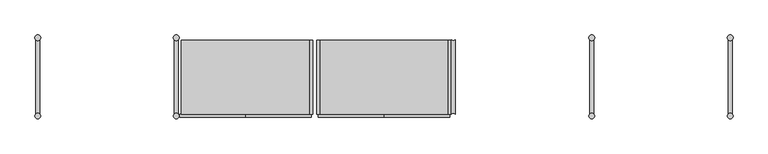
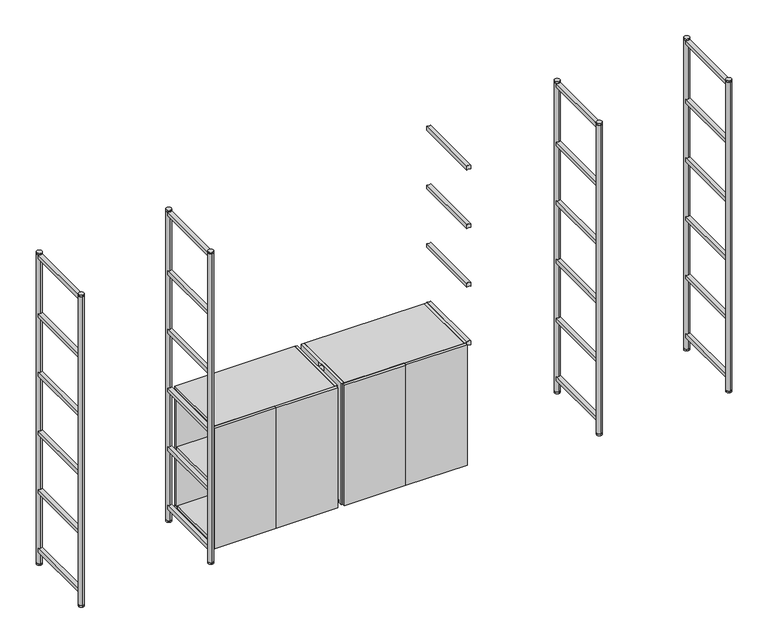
"""IFC4 building model written with IfcOpenShell, lengths in millimetres: furniture geometry, MAKR_TEMPLATE_800mmL1 : MAKR_TEMPLATE_800mmL 2."""

from ifc_helpers import new_model, si_unit, point, frame, frame_2d, origin, origin_with_axes, place, context, project, spatial, polyline, circle_curve, trimmed, segment, composite_curve, outline, extrude, source, transform, mapped, element, save
from ifc_brep_helpers import plane_surface, revolved_surface, advanced_brep


def furniture_078b4f94(model_context):
    return source(origin(), model_context, "Body", "SolidModel", [
        advanced_brep(
        [(-443.0, 218.5217186, 107.0), (-1207.0, 218.5217186, 107.0), (-1207.0, 196.394702, 107.0), (-1201.1019215, 196.394702, 107.0), (-1201.1019215, -199.3512647, 107.0), (-1207.0, -199.3512647, 107.0), (-1207.0, -221.4782814, 107.0), (-443.0, -221.4782814, 107.0), (-443.0, 218.5217186, 89.0), (-443.0, -221.4782814, 89.0), (-1207.0, -221.4782814, 89.0), (-1207.0, -199.4782814, 89.0), (-1201.1019215, -199.4782814, 89.0), (-1201.1019215, 196.5217186, 89.0), (-1207.0, 196.5217186, 89.0), (-1207.0, 218.5217186, 89.0), (-1207.0, 196.5217186, 106.0), (-1207.0, -199.4782814, 106.0), (-1201.1019215, 196.5217186, 106.0), (-1201.1019215, -199.4782814, 106.0)],
        [
            (0, 1),
            (1, 2),
            (2, 3),
            (3, 4),
            (4, 5),
            (5, 6),
            (6, 7),
            (7, 0),
            (8, 9),
            (9, 10),
            (10, 11),
            (11, 12),
            (12, 13),
            (13, 14),
            (14, 15),
            (15, 8),
            (0, 8),
            (15, 1),
            (14, 16),
            (16, 2, circle_curve(frame((-1207.0, 192.5217186, 106.0), z_axis=(1.0, 0.0, 0.0), x_axis=(0.0, 1.0, 0.0)), 4.0)),
            (10, 6),
            (5, 17, circle_curve(frame((-1207.0, -195.4782814, 106.0), z_axis=(1.0, 0.0, 0.0), x_axis=(0.0, 1.0, 0.0)), 4.0)),
            (17, 11),
            (9, 7),
            (18, 13),
            (12, 19),
            (19, 4, circle_curve(frame((-1201.1019215, -195.4782814, 106.0), z_axis=(-1.0, 0.0, 0.0), x_axis=(0.0, 1.0, 0.0)), 4.0)),
            (3, 18, circle_curve(frame((-1201.1019215, 192.5217186, 106.0), z_axis=(-1.0, 0.0, 0.0), x_axis=(0.0, 1.0, 0.0)), 4.0)),
            (19, 17),
            (18, 16),
        ],
        [
            plane_surface(frame((-1207.0, 218.5217186, 107.0), z_axis=(0.0, 0.0, 1.0), x_axis=(-1.0, 0.0, 0.0))),
            plane_surface(frame((-1207.0, 218.5217186, 89.0), z_axis=(0.0, 0.0, -1.0), x_axis=(1.0, 0.0, 0.0))),
            plane_surface(frame((-443.0, 218.5217186, 107.0), z_axis=(0.0, 1.0, 0.0), x_axis=(0.0, 0.0, -1.0))),
            plane_surface(frame((-1207.0, 218.5217186, 107.0), z_axis=(-1.0, 0.0, 0.0), x_axis=(0.0, 0.0, -1.0))),
            plane_surface(frame((-1207.0, -221.4782814, 107.0), z_axis=(0.0, -1.0, 0.0), x_axis=(0.0, 0.0, -1.0))),
            plane_surface(frame((-443.0, -221.4782814, 107.0), z_axis=(1.0, 0.0, 0.0), x_axis=(0.0, 0.0, -1.0))),
            plane_surface(frame((-1201.1019215, -191.4782814, 106.0), z_axis=(-1.0, 0.0, 0.0), x_axis=(0.0, 0.0, 1.0))),
            revolved_surface(polyline([(-1201.1019215, -191.4782814, 106.0), (-1207.0, -191.4782814, 106.0)]), (-1231.0458228, -195.4782814, 106.0), (1.0, 0.0, 0.0)),
            plane_surface(frame((-1201.1019215, -199.4782814, 106.0), z_axis=(0.0, 1.0, 0.0), x_axis=(-1.0, 0.0, 0.0))),
            plane_surface(frame((-1201.1019215, 196.5217186, 89.0), z_axis=(0.0, -1.0, 0.0), x_axis=(-1.0, 0.0, 0.0))),
            revolved_surface(polyline([(-1201.1019215, 196.5217186, 106.0), (-1207.0, 196.5217186, 106.0)]), (-1231.0458228, 192.5217186, 106.0), (1.0, 0.0, 0.0)),
        ],
        [
            (0, [[1, 2, 3, 4, 5, 6, 7, 8]]),
            (1, [[9, 10, 11, 12, 13, 14, 15, 16]]),
            (2, [[-1, 17, -16, 18]]),
            (3, [[-18, -15, 19, 20, -2]]),
            (3, [[21, -6, 22, 23, -11]]),
            (4, [[-7, -21, -10, 24]]),
            (5, [[-8, -24, -9, -17]]),
            (6, [[25, -13, 26, 27, -4, 28]]),
            (7, [[-27, 29, -22, -5]]),
            (8, [[-26, -12, -23, -29]]),
            (9, [[-25, 30, -19, -14]]),
            (10, [[-28, -3, -20, -30]]),
        ],
    ),
        extrude(outline(composite_curve([segment(polyline([(-221.4782814, 904.0), (218.5217186, 904.0), (218.5217186, 89.0), (196.5217186, 89.0), (196.5217186, 106.0)]), True, "CONTINUOUS"), segment(trimmed(circle_curve(frame_2d((192.5217186, 106.0)), 4.0), [point((196.5217186, 106.0))], [point((192.5217186, 110.0))], True, "CARTESIAN"), True, "CONTINUOUS"), segment(polyline([(192.5217186, 110.0), (-195.4782814, 110.0)]), True, "CONTINUOUS"), segment(trimmed(circle_curve(frame_2d((-195.4782814, 106.0)), 4.0), [point((-195.4782814, 110.0))], [point((-199.4782814, 106.0))], True, "CARTESIAN"), True, "CONTINUOUS"), segment(polyline([(-199.4782814, 106.0), (-199.4782814, 89.0), (-221.4782814, 89.0), (-221.4782814, 904.0)]), True, "CONTINUOUS")], self_intersect=False), holes=[polyline([(-27.4782814, 899.0), (-27.4782814, 874.0), (24.5217186, 874.0), (24.5217186, 899.0), (-27.4782814, 899.0)])]), frame((-443.0, 0.0, 0.0), z_axis=(1.0, 0.0, 0.0), x_axis=(0.0, 1.0, 0.0)), (0.0, 0.0, 1.0), 18.0),
        extrude(outline(polyline([(-443.0, 218.5217186), (-443.0, 200.5217186), (-1207.0, 200.5217186), (-1207.0, 218.5217186), (-443.0, 218.5217186)])), frame((0.0, 0.0, 107.0), z_axis=(0.0, 0.0, 1.0), x_axis=(1.0, 0.0, 0.0)), (0.0, 0.0, 1.0), 779.0),
        extrude(outline(polyline([(-443.0, 200.5217186), (-443.0, -221.4782814), (-1207.0, -221.4782814), (-1207.0, 200.5217186), (-443.0, 200.5217186)])), frame((0.0, 0.0, 487.5), z_axis=(0.0, 0.0, 1.0), x_axis=(1.0, 0.0, 0.0)), (0.0, 0.0, 1.0), 18.0),
        extrude(outline(polyline([(-443.0, 218.5217186), (-443.0, -221.4782814), (-1207.0, -221.4782814), (-1207.0, 218.5217186), (-443.0, 218.5217186)])), frame((0.0, 0.0, 886.0), z_axis=(0.0, 0.0, 1.0), x_axis=(1.0, 0.0, 0.0)), (0.0, 0.0, 1.0), 18.0),
        extrude(outline(polyline([(-816.0, 200.5217186), (-816.0, -221.4782814), (-834.0, -221.4782814), (-834.0, 200.5217186), (-816.0, 200.5217186)])), frame((0.0, 0.0, 107.0), z_axis=(0.0, 0.0, 1.0), x_axis=(1.0, 0.0, 0.0)), (0.0, 0.0, 1.0), 779.0),
        extrude(outline(polyline([(-434.0, -221.4782814), (-434.0, -239.4782814), (-824.0, -239.4782814), (-824.0, -221.4782814), (-434.0, -221.4782814)])), frame((0.0, 0.0, 91.0), z_axis=(0.0, 0.0, 1.0), x_axis=(1.0, 0.0, 0.0)), (0.0, 0.0, 1.0), 811.0),
        extrude(outline(polyline([(-1216.0, -221.4782814), (-826.0, -221.4782814), (-826.0, -239.4782814), (-1216.0, -239.4782814), (-1216.0, -221.4782814)])), frame((0.0, 0.0, 91.0), z_axis=(0.0, 0.0, 1.0), x_axis=(1.0, 0.0, 0.0)), (0.0, 0.0, 1.0), 811.0),
        extrude(outline(composite_curve([segment(polyline([(2075.0, 221.4782814), (2075.0, -221.4782814)]), True, "CONTINUOUS"), segment(trimmed(circle_curve(frame_2d((2062.5, -233.0)), 17.0), [point((2075.0, -221.4782814))], [point((2050.0, -221.4782814))], True, "CARTESIAN"), True, "CONTINUOUS"), segment(polyline([(2050.0, -221.4782814), (2050.0, 221.4782814)]), True, "CONTINUOUS"), segment(trimmed(circle_curve(frame_2d((2062.5, 233.0)), 17.0), [point((2050.0, 221.4782814))], [point((2075.0, 221.4782814))], True, "CARTESIAN"), True, "CONTINUOUS")], self_intersect=False)), frame((0.0, 0.0, 2064.0), z_axis=(0.0, 0.0, 1.0), x_axis=(1.0, 0.0, 0.0)), (0.0, 0.0, 1.0), 25.0),
        extrude(outline(composite_curve([segment(polyline([(2075.0, 221.4782814), (2075.0, -221.4782814)]), True, "CONTINUOUS"), segment(trimmed(circle_curve(frame_2d((2062.5, -233.0)), 17.0), [point((2075.0, -221.4782814))], [point((2050.0, -221.4782814))], True, "CARTESIAN"), True, "CONTINUOUS"), segment(polyline([(2050.0, -221.4782814), (2050.0, 221.4782814)]), True, "CONTINUOUS"), segment(trimmed(circle_curve(frame_2d((2062.5, 233.0)), 17.0), [point((2050.0, 221.4782814))], [point((2075.0, 221.4782814))], True, "CARTESIAN"), True, "CONTINUOUS")], self_intersect=False)), frame((0.0, 0.0, 1669.0), z_axis=(0.0, 0.0, 1.0), x_axis=(1.0, 0.0, 0.0)), (0.0, 0.0, 1.0), 25.0),
        extrude(outline(composite_curve([segment(polyline([(2075.0, 221.4782814), (2075.0, -221.4782814)]), True, "CONTINUOUS"), segment(trimmed(circle_curve(frame_2d((2062.5, -233.0)), 17.0), [point((2075.0, -221.4782814))], [point((2050.0, -221.4782814))], True, "CARTESIAN"), True, "CONTINUOUS"), segment(polyline([(2050.0, -221.4782814), (2050.0, 221.4782814)]), True, "CONTINUOUS"), segment(trimmed(circle_curve(frame_2d((2062.5, 233.0)), 17.0), [point((2050.0, 221.4782814))], [point((2075.0, 221.4782814))], True, "CARTESIAN"), True, "CONTINUOUS")], self_intersect=False)), frame((0.0, 0.0, 1274.0), z_axis=(0.0, 0.0, 1.0), x_axis=(1.0, 0.0, 0.0)), (0.0, 0.0, 1.0), 25.0),
        extrude(outline(composite_curve([segment(polyline([(2075.0, 221.4782814), (2075.0, -221.4782814)]), True, "CONTINUOUS"), segment(trimmed(circle_curve(frame_2d((2062.5, -233.0)), 17.0), [point((2075.0, -221.4782814))], [point((2050.0, -221.4782814))], True, "CARTESIAN"), True, "CONTINUOUS"), segment(polyline([(2050.0, -221.4782814), (2050.0, 221.4782814)]), True, "CONTINUOUS"), segment(trimmed(circle_curve(frame_2d((2062.5, 233.0)), 17.0), [point((2050.0, 221.4782814))], [point((2075.0, 221.4782814))], True, "CARTESIAN"), True, "CONTINUOUS")], self_intersect=False)), frame((0.0, 0.0, 879.0), z_axis=(0.0, 0.0, 1.0), x_axis=(1.0, 0.0, 0.0)), (0.0, 0.0, 1.0), 25.0),
        extrude(outline(composite_curve([segment(polyline([(2075.0, 221.4782814), (2075.0, -221.4782814)]), True, "CONTINUOUS"), segment(trimmed(circle_curve(frame_2d((2062.5, -233.0)), 17.0), [point((2075.0, -221.4782814))], [point((2050.0, -221.4782814))], True, "CARTESIAN"), True, "CONTINUOUS"), segment(polyline([(2050.0, -221.4782814), (2050.0, 221.4782814)]), True, "CONTINUOUS"), segment(trimmed(circle_curve(frame_2d((2062.5, 233.0)), 17.0), [point((2050.0, 221.4782814))], [point((2075.0, 221.4782814))], True, "CARTESIAN"), True, "CONTINUOUS")], self_intersect=False)), frame((0.0, 0.0, 484.0), z_axis=(0.0, 0.0, 1.0), x_axis=(1.0, 0.0, 0.0)), (0.0, 0.0, 1.0), 25.0),
        extrude(outline(composite_curve([segment(polyline([(2075.0, 221.4782814), (2075.0, -221.4782814)]), True, "CONTINUOUS"), segment(trimmed(circle_curve(frame_2d((2062.5, -233.0)), 17.0), [point((2075.0, -221.4782814))], [point((2050.0, -221.4782814))], True, "CARTESIAN"), True, "CONTINUOUS"), segment(polyline([(2050.0, -221.4782814), (2050.0, 221.4782814)]), True, "CONTINUOUS"), segment(trimmed(circle_curve(frame_2d((2062.5, 233.0)), 17.0), [point((2050.0, 221.4782814))], [point((2075.0, 221.4782814))], True, "CARTESIAN"), True, "CONTINUOUS")], self_intersect=False)), frame((0.0, 0.0, 89.0), z_axis=(0.0, 0.0, 1.0), x_axis=(1.0, 0.0, 0.0)), (0.0, 0.0, 1.0), 25.0),
        extrude(outline(composite_curve([segment(trimmed(circle_curve(frame_2d((2062.5, -233.0)), 17.0), [point((2062.5, -216.0))], [point((2062.5, -250.0))], False, "CARTESIAN"), True, "CONTINUOUS"), segment(trimmed(circle_curve(frame_2d((2062.5, -233.0)), 17.0), [point((2062.5, -250.0))], [point((2062.5, -216.0))], False, "CARTESIAN"), True, "CONTINUOUS")], self_intersect=False)), frame((0.0, 0.0, 2091.0), z_axis=(0.0, 0.0, 1.0), x_axis=(1.0, 0.0, 0.0)), (0.0, 0.0, 1.0), 9.0),
        extrude(outline(composite_curve([segment(trimmed(circle_curve(frame_2d((2062.5, -233.0)), 17.0), [point((2062.5, -216.0))], [point((2062.5, -250.0))], False, "CARTESIAN"), True, "CONTINUOUS"), segment(trimmed(circle_curve(frame_2d((2062.5, -233.0)), 17.0), [point((2062.5, -250.0))], [point((2062.5, -216.0))], False, "CARTESIAN"), True, "CONTINUOUS")], self_intersect=False)), origin_with_axes(), (0.0, 0.0, 1.0), 9.0),
        extrude(outline(composite_curve([segment(trimmed(circle_curve(frame_2d((2062.5, -233.0)), 17.0), [point((2062.5, -216.0))], [point((2062.5, -250.0))], False, "CARTESIAN"), True, "CONTINUOUS"), segment(trimmed(circle_curve(frame_2d((2062.5, -233.0)), 17.0), [point((2062.5, -250.0))], [point((2062.5, -216.0))], False, "CARTESIAN"), True, "CONTINUOUS")], self_intersect=False)), frame((0.0, 0.0, 9.0), z_axis=(0.0, 0.0, 1.0), x_axis=(1.0, 0.0, 0.0)), (0.0, 0.0, 1.0), 2082.0),
        extrude(outline(composite_curve([segment(trimmed(circle_curve(frame_2d((2062.5, 233.0)), 17.0), [point((2062.5, 216.0))], [point((2062.5, 250.0))], False, "CARTESIAN"), True, "CONTINUOUS"), segment(trimmed(circle_curve(frame_2d((2062.5, 233.0)), 17.0), [point((2062.5, 250.0))], [point((2062.5, 216.0))], False, "CARTESIAN"), True, "CONTINUOUS")], self_intersect=False)), frame((0.0, 0.0, 2091.0), z_axis=(0.0, 0.0, 1.0), x_axis=(1.0, 0.0, 0.0)), (0.0, 0.0, 1.0), 9.0),
        extrude(outline(composite_curve([segment(trimmed(circle_curve(frame_2d((2062.5, 233.0)), 17.0), [point((2062.5, 216.0))], [point((2062.5, 250.0))], False, "CARTESIAN"), True, "CONTINUOUS"), segment(trimmed(circle_curve(frame_2d((2062.5, 233.0)), 17.0), [point((2062.5, 250.0))], [point((2062.5, 216.0))], False, "CARTESIAN"), True, "CONTINUOUS")], self_intersect=False)), origin_with_axes(), (0.0, 0.0, 1.0), 9.0),
        extrude(outline(composite_curve([segment(trimmed(circle_curve(frame_2d((2062.5, 233.0)), 17.0), [point((2062.5, 216.0))], [point((2062.5, 250.0))], False, "CARTESIAN"), True, "CONTINUOUS"), segment(trimmed(circle_curve(frame_2d((2062.5, 233.0)), 17.0), [point((2062.5, 250.0))], [point((2062.5, 216.0))], False, "CARTESIAN"), True, "CONTINUOUS")], self_intersect=False)), frame((0.0, 0.0, 9.0), z_axis=(0.0, 0.0, 1.0), x_axis=(1.0, 0.0, 0.0)), (0.0, 0.0, 1.0), 2082.0),
        extrude(outline(composite_curve([segment(polyline([(1250.0, 221.4782814), (1250.0, -221.4782814)]), True, "CONTINUOUS"), segment(trimmed(circle_curve(frame_2d((1237.5, -233.0)), 17.0), [point((1250.0, -221.4782814))], [point((1225.0, -221.4782814))], True, "CARTESIAN"), True, "CONTINUOUS"), segment(polyline([(1225.0, -221.4782814), (1225.0, 221.4782814)]), True, "CONTINUOUS"), segment(trimmed(circle_curve(frame_2d((1237.5, 233.0)), 17.0), [point((1225.0, 221.4782814))], [point((1250.0, 221.4782814))], True, "CARTESIAN"), True, "CONTINUOUS")], self_intersect=False)), frame((0.0, 0.0, 2064.0), z_axis=(0.0, 0.0, 1.0), x_axis=(1.0, 0.0, 0.0)), (0.0, 0.0, 1.0), 25.0),
        extrude(outline(composite_curve([segment(polyline([(1250.0, 221.4782814), (1250.0, -221.4782814)]), True, "CONTINUOUS"), segment(trimmed(circle_curve(frame_2d((1237.5, -233.0)), 17.0), [point((1250.0, -221.4782814))], [point((1225.0, -221.4782814))], True, "CARTESIAN"), True, "CONTINUOUS"), segment(polyline([(1225.0, -221.4782814), (1225.0, 221.4782814)]), True, "CONTINUOUS"), segment(trimmed(circle_curve(frame_2d((1237.5, 233.0)), 17.0), [point((1225.0, 221.4782814))], [point((1250.0, 221.4782814))], True, "CARTESIAN"), True, "CONTINUOUS")], self_intersect=False)), frame((0.0, 0.0, 1669.0), z_axis=(0.0, 0.0, 1.0), x_axis=(1.0, 0.0, 0.0)), (0.0, 0.0, 1.0), 25.0),
        extrude(outline(composite_curve([segment(polyline([(1250.0, 221.4782814), (1250.0, -221.4782814)]), True, "CONTINUOUS"), segment(trimmed(circle_curve(frame_2d((1237.5, -233.0)), 17.0), [point((1250.0, -221.4782814))], [point((1225.0, -221.4782814))], True, "CARTESIAN"), True, "CONTINUOUS"), segment(polyline([(1225.0, -221.4782814), (1225.0, 221.4782814)]), True, "CONTINUOUS"), segment(trimmed(circle_curve(frame_2d((1237.5, 233.0)), 17.0), [point((1225.0, 221.4782814))], [point((1250.0, 221.4782814))], True, "CARTESIAN"), True, "CONTINUOUS")], self_intersect=False)), frame((0.0, 0.0, 1274.0), z_axis=(0.0, 0.0, 1.0), x_axis=(1.0, 0.0, 0.0)), (0.0, 0.0, 1.0), 25.0),
        extrude(outline(composite_curve([segment(polyline([(1250.0, 221.4782814), (1250.0, -221.4782814)]), True, "CONTINUOUS"), segment(trimmed(circle_curve(frame_2d((1237.5, -233.0)), 17.0), [point((1250.0, -221.4782814))], [point((1225.0, -221.4782814))], True, "CARTESIAN"), True, "CONTINUOUS"), segment(polyline([(1225.0, -221.4782814), (1225.0, 221.4782814)]), True, "CONTINUOUS"), segment(trimmed(circle_curve(frame_2d((1237.5, 233.0)), 17.0), [point((1225.0, 221.4782814))], [point((1250.0, 221.4782814))], True, "CARTESIAN"), True, "CONTINUOUS")], self_intersect=False)), frame((0.0, 0.0, 879.0), z_axis=(0.0, 0.0, 1.0), x_axis=(1.0, 0.0, 0.0)), (0.0, 0.0, 1.0), 25.0),
        extrude(outline(composite_curve([segment(polyline([(1250.0, 221.4782814), (1250.0, -221.4782814)]), True, "CONTINUOUS"), segment(trimmed(circle_curve(frame_2d((1237.5, -233.0)), 17.0), [point((1250.0, -221.4782814))], [point((1225.0, -221.4782814))], True, "CARTESIAN"), True, "CONTINUOUS"), segment(polyline([(1225.0, -221.4782814), (1225.0, 221.4782814)]), True, "CONTINUOUS"), segment(trimmed(circle_curve(frame_2d((1237.5, 233.0)), 17.0), [point((1225.0, 221.4782814))], [point((1250.0, 221.4782814))], True, "CARTESIAN"), True, "CONTINUOUS")], self_intersect=False)), frame((0.0, 0.0, 484.0), z_axis=(0.0, 0.0, 1.0), x_axis=(1.0, 0.0, 0.0)), (0.0, 0.0, 1.0), 25.0),
        extrude(outline(composite_curve([segment(polyline([(1250.0, 221.4782814), (1250.0, -221.4782814)]), True, "CONTINUOUS"), segment(trimmed(circle_curve(frame_2d((1237.5, -233.0)), 17.0), [point((1250.0, -221.4782814))], [point((1225.0, -221.4782814))], True, "CARTESIAN"), True, "CONTINUOUS"), segment(polyline([(1225.0, -221.4782814), (1225.0, 221.4782814)]), True, "CONTINUOUS"), segment(trimmed(circle_curve(frame_2d((1237.5, 233.0)), 17.0), [point((1225.0, 221.4782814))], [point((1250.0, 221.4782814))], True, "CARTESIAN"), True, "CONTINUOUS")], self_intersect=False)), frame((0.0, 0.0, 89.0), z_axis=(0.0, 0.0, 1.0), x_axis=(1.0, 0.0, 0.0)), (0.0, 0.0, 1.0), 25.0),
        extrude(outline(composite_curve([segment(trimmed(circle_curve(frame_2d((1237.5, -233.0)), 17.0), [point((1237.5, -216.0))], [point((1237.5, -250.0))], False, "CARTESIAN"), True, "CONTINUOUS"), segment(trimmed(circle_curve(frame_2d((1237.5, -233.0)), 17.0), [point((1237.5, -250.0))], [point((1237.5, -216.0))], False, "CARTESIAN"), True, "CONTINUOUS")], self_intersect=False)), frame((0.0, 0.0, 2091.0), z_axis=(0.0, 0.0, 1.0), x_axis=(1.0, 0.0, 0.0)), (0.0, 0.0, 1.0), 9.0),
        extrude(outline(composite_curve([segment(trimmed(circle_curve(frame_2d((1237.5, -233.0)), 17.0), [point((1237.5, -216.0))], [point((1237.5, -250.0))], False, "CARTESIAN"), True, "CONTINUOUS"), segment(trimmed(circle_curve(frame_2d((1237.5, -233.0)), 17.0), [point((1237.5, -250.0))], [point((1237.5, -216.0))], False, "CARTESIAN"), True, "CONTINUOUS")], self_intersect=False)), origin_with_axes(), (0.0, 0.0, 1.0), 9.0),
        extrude(outline(composite_curve([segment(trimmed(circle_curve(frame_2d((1237.5, -233.0)), 17.0), [point((1237.5, -216.0))], [point((1237.5, -250.0))], False, "CARTESIAN"), True, "CONTINUOUS"), segment(trimmed(circle_curve(frame_2d((1237.5, -233.0)), 17.0), [point((1237.5, -250.0))], [point((1237.5, -216.0))], False, "CARTESIAN"), True, "CONTINUOUS")], self_intersect=False)), frame((0.0, 0.0, 9.0), z_axis=(0.0, 0.0, 1.0), x_axis=(1.0, 0.0, 0.0)), (0.0, 0.0, 1.0), 2082.0),
        extrude(outline(composite_curve([segment(trimmed(circle_curve(frame_2d((1237.5, 233.0)), 17.0), [point((1237.5, 216.0))], [point((1237.5, 250.0))], False, "CARTESIAN"), True, "CONTINUOUS"), segment(trimmed(circle_curve(frame_2d((1237.5, 233.0)), 17.0), [point((1237.5, 250.0))], [point((1237.5, 216.0))], False, "CARTESIAN"), True, "CONTINUOUS")], self_intersect=False)), frame((0.0, 0.0, 2091.0), z_axis=(0.0, 0.0, 1.0), x_axis=(1.0, 0.0, 0.0)), (0.0, 0.0, 1.0), 9.0),
        extrude(outline(composite_curve([segment(trimmed(circle_curve(frame_2d((1237.5, 233.0)), 17.0), [point((1237.5, 216.0))], [point((1237.5, 250.0))], False, "CARTESIAN"), True, "CONTINUOUS"), segment(trimmed(circle_curve(frame_2d((1237.5, 233.0)), 17.0), [point((1237.5, 250.0))], [point((1237.5, 216.0))], False, "CARTESIAN"), True, "CONTINUOUS")], self_intersect=False)), origin_with_axes(), (0.0, 0.0, 1.0), 9.0),
        extrude(outline(composite_curve([segment(trimmed(circle_curve(frame_2d((1237.5, 233.0)), 17.0), [point((1237.5, 216.0))], [point((1237.5, 250.0))], False, "CARTESIAN"), True, "CONTINUOUS"), segment(trimmed(circle_curve(frame_2d((1237.5, 233.0)), 17.0), [point((1237.5, 250.0))], [point((1237.5, 216.0))], False, "CARTESIAN"), True, "CONTINUOUS")], self_intersect=False)), frame((0.0, 0.0, 9.0), z_axis=(0.0, 0.0, 1.0), x_axis=(1.0, 0.0, 0.0)), (0.0, 0.0, 1.0), 2082.0),
        extrude(outline(composite_curve([segment(trimmed(circle_curve(frame_2d((-2062.5, 233.0)), 17.0), [point((-2075.0, 221.4782814))], [point((-2050.0, 221.4782814))], True, "CARTESIAN"), True, "CONTINUOUS"), segment(polyline([(-2050.0, 221.4782814), (-2050.0, -221.4782814)]), True, "CONTINUOUS"), segment(trimmed(circle_curve(frame_2d((-2062.5, -233.0)), 17.0), [point((-2050.0, -221.4782814))], [point((-2075.0, -221.4782814))], True, "CARTESIAN"), True, "CONTINUOUS"), segment(polyline([(-2075.0, -221.4782814), (-2075.0, 221.4782814)]), True, "CONTINUOUS")], self_intersect=False)), frame((0.0, 0.0, 2064.0), z_axis=(0.0, 0.0, 1.0), x_axis=(1.0, 0.0, 0.0)), (0.0, 0.0, 1.0), 25.0),
        extrude(outline(composite_curve([segment(trimmed(circle_curve(frame_2d((-2062.5, 233.0)), 17.0), [point((-2075.0, 221.4782814))], [point((-2050.0, 221.4782814))], True, "CARTESIAN"), True, "CONTINUOUS"), segment(polyline([(-2050.0, 221.4782814), (-2050.0, -221.4782814)]), True, "CONTINUOUS"), segment(trimmed(circle_curve(frame_2d((-2062.5, -233.0)), 17.0), [point((-2050.0, -221.4782814))], [point((-2075.0, -221.4782814))], True, "CARTESIAN"), True, "CONTINUOUS"), segment(polyline([(-2075.0, -221.4782814), (-2075.0, 221.4782814)]), True, "CONTINUOUS")], self_intersect=False)), frame((0.0, 0.0, 1669.0), z_axis=(0.0, 0.0, 1.0), x_axis=(1.0, 0.0, 0.0)), (0.0, 0.0, 1.0), 25.0),
        extrude(outline(composite_curve([segment(trimmed(circle_curve(frame_2d((-2062.5, 233.0)), 17.0), [point((-2075.0, 221.4782814))], [point((-2050.0, 221.4782814))], True, "CARTESIAN"), True, "CONTINUOUS"), segment(polyline([(-2050.0, 221.4782814), (-2050.0, -221.4782814)]), True, "CONTINUOUS"), segment(trimmed(circle_curve(frame_2d((-2062.5, -233.0)), 17.0), [point((-2050.0, -221.4782814))], [point((-2075.0, -221.4782814))], True, "CARTESIAN"), True, "CONTINUOUS"), segment(polyline([(-2075.0, -221.4782814), (-2075.0, 221.4782814)]), True, "CONTINUOUS")], self_intersect=False)), frame((0.0, 0.0, 1274.0), z_axis=(0.0, 0.0, 1.0), x_axis=(1.0, 0.0, 0.0)), (0.0, 0.0, 1.0), 25.0),
        extrude(outline(composite_curve([segment(trimmed(circle_curve(frame_2d((-2062.5, 233.0)), 17.0), [point((-2075.0, 221.4782814))], [point((-2050.0, 221.4782814))], True, "CARTESIAN"), True, "CONTINUOUS"), segment(polyline([(-2050.0, 221.4782814), (-2050.0, -221.4782814)]), True, "CONTINUOUS"), segment(trimmed(circle_curve(frame_2d((-2062.5, -233.0)), 17.0), [point((-2050.0, -221.4782814))], [point((-2075.0, -221.4782814))], True, "CARTESIAN"), True, "CONTINUOUS"), segment(polyline([(-2075.0, -221.4782814), (-2075.0, 221.4782814)]), True, "CONTINUOUS")], self_intersect=False)), frame((0.0, 0.0, 879.0), z_axis=(0.0, 0.0, 1.0), x_axis=(1.0, 0.0, 0.0)), (0.0, 0.0, 1.0), 25.0),
        extrude(outline(composite_curve([segment(trimmed(circle_curve(frame_2d((-2062.5, 233.0)), 17.0), [point((-2075.0, 221.4782814))], [point((-2050.0, 221.4782814))], True, "CARTESIAN"), True, "CONTINUOUS"), segment(polyline([(-2050.0, 221.4782814), (-2050.0, -221.4782814)]), True, "CONTINUOUS"), segment(trimmed(circle_curve(frame_2d((-2062.5, -233.0)), 17.0), [point((-2050.0, -221.4782814))], [point((-2075.0, -221.4782814))], True, "CARTESIAN"), True, "CONTINUOUS"), segment(polyline([(-2075.0, -221.4782814), (-2075.0, 221.4782814)]), True, "CONTINUOUS")], self_intersect=False)), frame((0.0, 0.0, 484.0), z_axis=(0.0, 0.0, 1.0), x_axis=(1.0, 0.0, 0.0)), (0.0, 0.0, 1.0), 25.0),
        extrude(outline(composite_curve([segment(trimmed(circle_curve(frame_2d((-2062.5, 233.0)), 17.0), [point((-2075.0, 221.4782814))], [point((-2050.0, 221.4782814))], True, "CARTESIAN"), True, "CONTINUOUS"), segment(polyline([(-2050.0, 221.4782814), (-2050.0, -221.4782814)]), True, "CONTINUOUS"), segment(trimmed(circle_curve(frame_2d((-2062.5, -233.0)), 17.0), [point((-2050.0, -221.4782814))], [point((-2075.0, -221.4782814))], True, "CARTESIAN"), True, "CONTINUOUS"), segment(polyline([(-2075.0, -221.4782814), (-2075.0, 221.4782814)]), True, "CONTINUOUS")], self_intersect=False)), frame((0.0, 0.0, 89.0), z_axis=(0.0, 0.0, 1.0), x_axis=(1.0, 0.0, 0.0)), (0.0, 0.0, 1.0), 25.0),
        extrude(outline(composite_curve([segment(trimmed(circle_curve(frame_2d((-2062.5, -233.0)), 17.0), [point((-2062.5, -216.0))], [point((-2062.5, -250.0))], False, "CARTESIAN"), True, "CONTINUOUS"), segment(trimmed(circle_curve(frame_2d((-2062.5, -233.0)), 17.0), [point((-2062.5, -250.0))], [point((-2062.5, -216.0))], False, "CARTESIAN"), True, "CONTINUOUS")], self_intersect=False)), frame((0.0, 0.0, 2091.0), z_axis=(0.0, 0.0, 1.0), x_axis=(1.0, 0.0, 0.0)), (0.0, 0.0, 1.0), 9.0),
        extrude(outline(composite_curve([segment(trimmed(circle_curve(frame_2d((-2062.5, -233.0)), 17.0), [point((-2062.5, -216.0))], [point((-2062.5, -250.0))], False, "CARTESIAN"), True, "CONTINUOUS"), segment(trimmed(circle_curve(frame_2d((-2062.5, -233.0)), 17.0), [point((-2062.5, -250.0))], [point((-2062.5, -216.0))], False, "CARTESIAN"), True, "CONTINUOUS")], self_intersect=False)), origin_with_axes(), (0.0, 0.0, 1.0), 9.0),
        extrude(outline(composite_curve([segment(trimmed(circle_curve(frame_2d((-2062.5, -233.0)), 17.0), [point((-2062.5, -216.0))], [point((-2062.5, -250.0))], False, "CARTESIAN"), True, "CONTINUOUS"), segment(trimmed(circle_curve(frame_2d((-2062.5, -233.0)), 17.0), [point((-2062.5, -250.0))], [point((-2062.5, -216.0))], False, "CARTESIAN"), True, "CONTINUOUS")], self_intersect=False)), frame((0.0, 0.0, 9.0), z_axis=(0.0, 0.0, 1.0), x_axis=(1.0, 0.0, 0.0)), (0.0, 0.0, 1.0), 2082.0),
        extrude(outline(composite_curve([segment(trimmed(circle_curve(frame_2d((-2062.5, 233.0)), 17.0), [point((-2062.5, 216.0))], [point((-2062.5, 250.0))], False, "CARTESIAN"), True, "CONTINUOUS"), segment(trimmed(circle_curve(frame_2d((-2062.5, 233.0)), 17.0), [point((-2062.5, 250.0))], [point((-2062.5, 216.0))], False, "CARTESIAN"), True, "CONTINUOUS")], self_intersect=False)), frame((0.0, 0.0, 2091.0), z_axis=(0.0, 0.0, 1.0), x_axis=(1.0, 0.0, 0.0)), (0.0, 0.0, 1.0), 9.0),
        extrude(outline(composite_curve([segment(trimmed(circle_curve(frame_2d((-2062.5, 233.0)), 17.0), [point((-2062.5, 216.0))], [point((-2062.5, 250.0))], False, "CARTESIAN"), True, "CONTINUOUS"), segment(trimmed(circle_curve(frame_2d((-2062.5, 233.0)), 17.0), [point((-2062.5, 250.0))], [point((-2062.5, 216.0))], False, "CARTESIAN"), True, "CONTINUOUS")], self_intersect=False)), origin_with_axes(), (0.0, 0.0, 1.0), 9.0),
        extrude(outline(composite_curve([segment(trimmed(circle_curve(frame_2d((-2062.5, 233.0)), 17.0), [point((-2062.5, 216.0))], [point((-2062.5, 250.0))], False, "CARTESIAN"), True, "CONTINUOUS"), segment(trimmed(circle_curve(frame_2d((-2062.5, 233.0)), 17.0), [point((-2062.5, 250.0))], [point((-2062.5, 216.0))], False, "CARTESIAN"), True, "CONTINUOUS")], self_intersect=False)), frame((0.0, 0.0, 9.0), z_axis=(0.0, 0.0, 1.0), x_axis=(1.0, 0.0, 0.0)), (0.0, 0.0, 1.0), 2082.0),
        extrude(outline(composite_curve([segment(trimmed(circle_curve(frame_2d((-1237.5, 233.0)), 17.0), [point((-1250.0, 221.4782814))], [point((-1225.0, 221.4782814))], True, "CARTESIAN"), True, "CONTINUOUS"), segment(polyline([(-1225.0, 221.4782814), (-1225.0, -221.4782814)]), True, "CONTINUOUS"), segment(trimmed(circle_curve(frame_2d((-1237.5, -233.0)), 17.0), [point((-1225.0, -221.4782814))], [point((-1250.0, -221.4782814))], True, "CARTESIAN"), True, "CONTINUOUS"), segment(polyline([(-1250.0, -221.4782814), (-1250.0, 221.4782814)]), True, "CONTINUOUS")], self_intersect=False)), frame((0.0, 0.0, 2064.0), z_axis=(0.0, 0.0, 1.0), x_axis=(1.0, 0.0, 0.0)), (0.0, 0.0, 1.0), 25.0),
        extrude(outline(composite_curve([segment(trimmed(circle_curve(frame_2d((-1237.5, 233.0)), 17.0), [point((-1250.0, 221.4782814))], [point((-1225.0, 221.4782814))], True, "CARTESIAN"), True, "CONTINUOUS"), segment(polyline([(-1225.0, 221.4782814), (-1225.0, -221.4782814)]), True, "CONTINUOUS"), segment(trimmed(circle_curve(frame_2d((-1237.5, -233.0)), 17.0), [point((-1225.0, -221.4782814))], [point((-1250.0, -221.4782814))], True, "CARTESIAN"), True, "CONTINUOUS"), segment(polyline([(-1250.0, -221.4782814), (-1250.0, 221.4782814)]), True, "CONTINUOUS")], self_intersect=False)), frame((0.0, 0.0, 1669.0), z_axis=(0.0, 0.0, 1.0), x_axis=(1.0, 0.0, 0.0)), (0.0, 0.0, 1.0), 25.0),
        extrude(outline(composite_curve([segment(trimmed(circle_curve(frame_2d((-1237.5, 233.0)), 17.0), [point((-1250.0, 221.4782814))], [point((-1225.0, 221.4782814))], True, "CARTESIAN"), True, "CONTINUOUS"), segment(polyline([(-1225.0, 221.4782814), (-1225.0, -221.4782814)]), True, "CONTINUOUS"), segment(trimmed(circle_curve(frame_2d((-1237.5, -233.0)), 17.0), [point((-1225.0, -221.4782814))], [point((-1250.0, -221.4782814))], True, "CARTESIAN"), True, "CONTINUOUS"), segment(polyline([(-1250.0, -221.4782814), (-1250.0, 221.4782814)]), True, "CONTINUOUS")], self_intersect=False)), frame((0.0, 0.0, 1274.0), z_axis=(0.0, 0.0, 1.0), x_axis=(1.0, 0.0, 0.0)), (0.0, 0.0, 1.0), 25.0),
        extrude(outline(composite_curve([segment(trimmed(circle_curve(frame_2d((-1237.5, 233.0)), 17.0), [point((-1250.0, 221.4782814))], [point((-1225.0, 221.4782814))], True, "CARTESIAN"), True, "CONTINUOUS"), segment(polyline([(-1225.0, 221.4782814), (-1225.0, -221.4782814)]), True, "CONTINUOUS"), segment(trimmed(circle_curve(frame_2d((-1237.5, -233.0)), 17.0), [point((-1225.0, -221.4782814))], [point((-1250.0, -221.4782814))], True, "CARTESIAN"), True, "CONTINUOUS"), segment(polyline([(-1250.0, -221.4782814), (-1250.0, 221.4782814)]), True, "CONTINUOUS")], self_intersect=False)), frame((0.0, 0.0, 879.0), z_axis=(0.0, 0.0, 1.0), x_axis=(1.0, 0.0, 0.0)), (0.0, 0.0, 1.0), 25.0),
        extrude(outline(composite_curve([segment(trimmed(circle_curve(frame_2d((-1237.5, 233.0)), 17.0), [point((-1250.0, 221.4782814))], [point((-1225.0, 221.4782814))], True, "CARTESIAN"), True, "CONTINUOUS"), segment(polyline([(-1225.0, 221.4782814), (-1225.0, -221.4782814)]), True, "CONTINUOUS"), segment(trimmed(circle_curve(frame_2d((-1237.5, -233.0)), 17.0), [point((-1225.0, -221.4782814))], [point((-1250.0, -221.4782814))], True, "CARTESIAN"), True, "CONTINUOUS"), segment(polyline([(-1250.0, -221.4782814), (-1250.0, 221.4782814)]), True, "CONTINUOUS")], self_intersect=False)), frame((0.0, 0.0, 484.0), z_axis=(0.0, 0.0, 1.0), x_axis=(1.0, 0.0, 0.0)), (0.0, 0.0, 1.0), 25.0),
        extrude(outline(composite_curve([segment(trimmed(circle_curve(frame_2d((-1237.5, 233.0)), 17.0), [point((-1250.0, 221.4782814))], [point((-1225.0, 221.4782814))], True, "CARTESIAN"), True, "CONTINUOUS"), segment(polyline([(-1225.0, 221.4782814), (-1225.0, -221.4782814)]), True, "CONTINUOUS"), segment(trimmed(circle_curve(frame_2d((-1237.5, -233.0)), 17.0), [point((-1225.0, -221.4782814))], [point((-1250.0, -221.4782814))], True, "CARTESIAN"), True, "CONTINUOUS"), segment(polyline([(-1250.0, -221.4782814), (-1250.0, 221.4782814)]), True, "CONTINUOUS")], self_intersect=False)), frame((0.0, 0.0, 89.0), z_axis=(0.0, 0.0, 1.0), x_axis=(1.0, 0.0, 0.0)), (0.0, 0.0, 1.0), 25.0),
        extrude(outline(composite_curve([segment(trimmed(circle_curve(frame_2d((-1237.5, -233.0)), 17.0), [point((-1237.5, -216.0))], [point((-1237.5, -250.0))], False, "CARTESIAN"), True, "CONTINUOUS"), segment(trimmed(circle_curve(frame_2d((-1237.5, -233.0)), 17.0), [point((-1237.5, -250.0))], [point((-1237.5, -216.0))], False, "CARTESIAN"), True, "CONTINUOUS")], self_intersect=False)), frame((0.0, 0.0, 2091.0), z_axis=(0.0, 0.0, 1.0), x_axis=(1.0, 0.0, 0.0)), (0.0, 0.0, 1.0), 9.0),
        extrude(outline(composite_curve([segment(trimmed(circle_curve(frame_2d((-1237.5, -233.0)), 17.0), [point((-1237.5, -216.0))], [point((-1237.5, -250.0))], False, "CARTESIAN"), True, "CONTINUOUS"), segment(trimmed(circle_curve(frame_2d((-1237.5, -233.0)), 17.0), [point((-1237.5, -250.0))], [point((-1237.5, -216.0))], False, "CARTESIAN"), True, "CONTINUOUS")], self_intersect=False)), origin_with_axes(), (0.0, 0.0, 1.0), 9.0),
        extrude(outline(composite_curve([segment(trimmed(circle_curve(frame_2d((-1237.5, -233.0)), 17.0), [point((-1237.5, -216.0))], [point((-1237.5, -250.0))], False, "CARTESIAN"), True, "CONTINUOUS"), segment(trimmed(circle_curve(frame_2d((-1237.5, -233.0)), 17.0), [point((-1237.5, -250.0))], [point((-1237.5, -216.0))], False, "CARTESIAN"), True, "CONTINUOUS")], self_intersect=False)), frame((0.0, 0.0, 9.0), z_axis=(0.0, 0.0, 1.0), x_axis=(1.0, 0.0, 0.0)), (0.0, 0.0, 1.0), 2082.0),
        extrude(outline(composite_curve([segment(trimmed(circle_curve(frame_2d((-1237.5, 233.0)), 17.0), [point((-1237.5, 216.0))], [point((-1237.5, 250.0))], False, "CARTESIAN"), True, "CONTINUOUS"), segment(trimmed(circle_curve(frame_2d((-1237.5, 233.0)), 17.0), [point((-1237.5, 250.0))], [point((-1237.5, 216.0))], False, "CARTESIAN"), True, "CONTINUOUS")], self_intersect=False)), frame((0.0, 0.0, 2091.0), z_axis=(0.0, 0.0, 1.0), x_axis=(1.0, 0.0, 0.0)), (0.0, 0.0, 1.0), 9.0),
        extrude(outline(composite_curve([segment(trimmed(circle_curve(frame_2d((-1237.5, 233.0)), 17.0), [point((-1237.5, 216.0))], [point((-1237.5, 250.0))], False, "CARTESIAN"), True, "CONTINUOUS"), segment(trimmed(circle_curve(frame_2d((-1237.5, 233.0)), 17.0), [point((-1237.5, 250.0))], [point((-1237.5, 216.0))], False, "CARTESIAN"), True, "CONTINUOUS")], self_intersect=False)), origin_with_axes(), (0.0, 0.0, 1.0), 9.0),
        extrude(outline(composite_curve([segment(trimmed(circle_curve(frame_2d((-1237.5, 233.0)), 17.0), [point((-1237.5, 216.0))], [point((-1237.5, 250.0))], False, "CARTESIAN"), True, "CONTINUOUS"), segment(trimmed(circle_curve(frame_2d((-1237.5, 233.0)), 17.0), [point((-1237.5, 250.0))], [point((-1237.5, 216.0))], False, "CARTESIAN"), True, "CONTINUOUS")], self_intersect=False)), frame((0.0, 0.0, 9.0), z_axis=(0.0, 0.0, 1.0), x_axis=(1.0, 0.0, 0.0)), (0.0, 0.0, 1.0), 2082.0),
        extrude(outline(composite_curve([segment(polyline([(-221.4782814, 904.0), (218.5217186, 904.0), (218.5217186, 89.0), (196.5217186, 89.0), (196.5217186, 106.0)]), True, "CONTINUOUS"), segment(trimmed(circle_curve(frame_2d((192.5217186, 106.0)), 4.0), [point((196.5217186, 106.0))], [point((192.5217186, 110.0))], True, "CARTESIAN"), True, "CONTINUOUS"), segment(polyline([(192.5217186, 110.0), (-195.4782814, 110.0)]), True, "CONTINUOUS"), segment(trimmed(circle_curve(frame_2d((-195.4782814, 106.0)), 4.0), [point((-195.4782814, 110.0))], [point((-199.4782814, 106.0))], True, "CARTESIAN"), True, "CONTINUOUS"), segment(polyline([(-199.4782814, 106.0), (-199.4782814, 89.0), (-221.4782814, 89.0), (-221.4782814, 904.0)]), True, "CONTINUOUS")], self_intersect=False), holes=[polyline([(-27.4782814, 899.0), (-27.4782814, 874.0), (24.5217186, 874.0), (24.5217186, 899.0), (-27.4782814, 899.0)])]), frame((-400.0, 0.0, 0.0), z_axis=(1.0, 0.0, 0.0), x_axis=(0.0, 1.0, 0.0)), (0.0, 0.0, 1.0), 18.0),
        advanced_brep(
        [(382.0, 218.5217186, 107.0), (-382.0, 218.5217186, 107.0), (-382.0, 196.394702, 107.0), (-376.1019215, 196.394702, 107.0), (-376.1019215, -199.3512647, 107.0), (-382.0, -199.3512647, 107.0), (-382.0, -221.4782814, 107.0), (382.0, -221.4782814, 107.0), (382.0, 218.5217186, 89.0), (382.0, -221.4782814, 89.0), (-382.0, -221.4782814, 89.0), (-382.0, -199.4782814, 89.0), (-376.1019215, -199.4782814, 89.0), (-376.1019215, 196.5217186, 89.0), (-382.0, 196.5217186, 89.0), (-382.0, 218.5217186, 89.0), (-382.0, 196.5217186, 106.0), (-382.0, -199.4782814, 106.0), (-376.1019215, 196.5217186, 106.0), (-376.1019215, -199.4782814, 106.0)],
        [
            (0, 1),
            (1, 2),
            (2, 3),
            (3, 4),
            (4, 5),
            (5, 6),
            (6, 7),
            (7, 0),
            (8, 9),
            (9, 10),
            (10, 11),
            (11, 12),
            (12, 13),
            (13, 14),
            (14, 15),
            (15, 8),
            (0, 8),
            (15, 1),
            (14, 16),
            (16, 2, circle_curve(frame((-382.0, 192.5217186, 106.0), z_axis=(1.0, 0.0, 0.0), x_axis=(0.0, 1.0, 0.0)), 4.0)),
            (10, 6),
            (5, 17, circle_curve(frame((-382.0, -195.4782814, 106.0), z_axis=(1.0, 0.0, 0.0), x_axis=(0.0, 1.0, 0.0)), 4.0)),
            (17, 11),
            (9, 7),
            (18, 13),
            (12, 19),
            (19, 4, circle_curve(frame((-376.1019215, -195.4782814, 106.0), z_axis=(-1.0, 0.0, 0.0), x_axis=(0.0, 1.0, 0.0)), 4.0)),
            (3, 18, circle_curve(frame((-376.1019215, 192.5217186, 106.0), z_axis=(-1.0, 0.0, 0.0), x_axis=(0.0, 1.0, 0.0)), 4.0)),
            (19, 17),
            (18, 16),
        ],
        [
            plane_surface(frame((-382.0, 218.5217186, 107.0), z_axis=(0.0, 0.0, 1.0), x_axis=(-1.0, 0.0, 0.0))),
            plane_surface(frame((-382.0, 218.5217186, 89.0), z_axis=(0.0, 0.0, -1.0), x_axis=(1.0, 0.0, 0.0))),
            plane_surface(frame((382.0, 218.5217186, 107.0), z_axis=(0.0, 1.0, 0.0), x_axis=(0.0, 0.0, -1.0))),
            plane_surface(frame((-382.0, 218.5217186, 107.0), z_axis=(-1.0, 0.0, 0.0), x_axis=(0.0, 0.0, -1.0))),
            plane_surface(frame((-382.0, -221.4782814, 107.0), z_axis=(0.0, -1.0, 0.0), x_axis=(0.0, 0.0, -1.0))),
            plane_surface(frame((382.0, -221.4782814, 107.0), z_axis=(1.0, 0.0, 0.0), x_axis=(0.0, 0.0, -1.0))),
            plane_surface(frame((-376.1019215, -191.4782814, 106.0), z_axis=(-1.0, 0.0, 0.0), x_axis=(0.0, 0.0, 1.0))),
            revolved_surface(polyline([(-376.1019215, -191.4782814, 106.0), (-382.0, -191.4782814, 106.0)]), (-406.0458228, -195.4782814, 106.0), (1.0, 0.0, 0.0)),
            plane_surface(frame((-376.1019215, -199.4782814, 106.0), z_axis=(0.0, 1.0, 0.0), x_axis=(-1.0, 0.0, 0.0))),
            plane_surface(frame((-376.1019215, 196.5217186, 89.0), z_axis=(0.0, -1.0, 0.0), x_axis=(-1.0, 0.0, 0.0))),
            revolved_surface(polyline([(-376.1019215, 196.5217186, 106.0), (-382.0, 196.5217186, 106.0)]), (-406.0458228, 192.5217186, 106.0), (1.0, 0.0, 0.0)),
        ],
        [
            (0, [[1, 2, 3, 4, 5, 6, 7, 8]]),
            (1, [[9, 10, 11, 12, 13, 14, 15, 16]]),
            (2, [[-1, 17, -16, 18]]),
            (3, [[-18, -15, 19, 20, -2]]),
            (3, [[21, -6, 22, 23, -11]]),
            (4, [[-7, -21, -10, 24]]),
            (5, [[-8, -24, -9, -17]]),
            (6, [[25, -13, 26, 27, -4, 28]]),
            (7, [[-27, 29, -22, -5]]),
            (8, [[-26, -12, -23, -29]]),
            (9, [[-25, 30, -19, -14]]),
            (10, [[-28, -3, -20, -30]]),
        ],
    ),
        extrude(outline(composite_curve([segment(polyline([(-221.4782814, 904.0), (218.5217186, 904.0), (218.5217186, 89.0), (196.5217186, 89.0), (196.5217186, 106.0)]), True, "CONTINUOUS"), segment(trimmed(circle_curve(frame_2d((192.5217186, 106.0)), 4.0), [point((196.5217186, 106.0))], [point((192.5217186, 110.0))], True, "CARTESIAN"), True, "CONTINUOUS"), segment(polyline([(192.5217186, 110.0), (-195.4782814, 110.0)]), True, "CONTINUOUS"), segment(trimmed(circle_curve(frame_2d((-195.4782814, 106.0)), 4.0), [point((-195.4782814, 110.0))], [point((-199.4782814, 106.0))], True, "CARTESIAN"), True, "CONTINUOUS"), segment(polyline([(-199.4782814, 106.0), (-199.4782814, 89.0), (-221.4782814, 89.0), (-221.4782814, 904.0)]), True, "CONTINUOUS")], self_intersect=False), holes=[polyline([(-27.4782814, 899.0), (-27.4782814, 874.0), (24.5217186, 874.0), (24.5217186, 899.0), (-27.4782814, 899.0)])]), frame((382.0, 0.0, 0.0), z_axis=(1.0, 0.0, 0.0), x_axis=(0.0, 1.0, 0.0)), (0.0, 0.0, 1.0), 18.0),
        extrude(outline(polyline([(382.0, 218.5217186), (382.0, 200.5217186), (-382.0, 200.5217186), (-382.0, 218.5217186), (382.0, 218.5217186)])), frame((0.0, 0.0, 107.0), z_axis=(0.0, 0.0, 1.0), x_axis=(1.0, 0.0, 0.0)), (0.0, 0.0, 1.0), 779.0),
        extrude(outline(polyline([(382.0, 200.5217186), (382.0, -221.4782814), (-382.0, -221.4782814), (-382.0, 200.5217186), (382.0, 200.5217186)])), frame((0.0, 0.0, 487.5), z_axis=(0.0, 0.0, 1.0), x_axis=(1.0, 0.0, 0.0)), (0.0, 0.0, 1.0), 18.0),
        extrude(outline(polyline([(382.0, 218.5217186), (382.0, -221.4782814), (-382.0, -221.4782814), (-382.0, 218.5217186), (382.0, 218.5217186)])), frame((0.0, 0.0, 886.0), z_axis=(0.0, 0.0, 1.0), x_axis=(1.0, 0.0, 0.0)), (0.0, 0.0, 1.0), 18.0),
        extrude(outline(polyline([(9.0, 200.5217186), (9.0, -221.4782814), (-9.0, -221.4782814), (-9.0, 200.5217186), (9.0, 200.5217186)])), frame((0.0, 0.0, 107.0), z_axis=(0.0, 0.0, 1.0), x_axis=(1.0, 0.0, 0.0)), (0.0, 0.0, 1.0), 779.0),
        extrude(outline(polyline([(391.0, -221.4782814), (391.0, -239.4782814), (1.0, -239.4782814), (1.0, -221.4782814), (391.0, -221.4782814)])), frame((0.0, 0.0, 91.0), z_axis=(0.0, 0.0, 1.0), x_axis=(1.0, 0.0, 0.0)), (0.0, 0.0, 1.0), 811.0),
        extrude(outline(polyline([(-391.0, -221.4782814), (-1.0, -221.4782814), (-1.0, -239.4782814), (-391.0, -239.4782814), (-391.0, -221.4782814)])), frame((0.0, 0.0, 91.0), z_axis=(0.0, 0.0, 1.0), x_axis=(1.0, 0.0, 0.0)), (0.0, 0.0, 1.0), 811.0),
        extrude(outline(composite_curve([segment(polyline([(425.0, 221.4782814), (425.0, -221.4782814)]), True, "CONTINUOUS"), segment(trimmed(circle_curve(frame_2d((412.5, -233.0)), 17.0), [point((425.0, -221.4782814))], [point((400.0, -221.4782814))], True, "CARTESIAN"), True, "CONTINUOUS"), segment(polyline([(400.0, -221.4782814), (400.0, 221.4782814)]), True, "CONTINUOUS"), segment(trimmed(circle_curve(frame_2d((412.5, 233.0)), 17.0), [point((400.0, 221.4782814))], [point((425.0, 221.4782814))], True, "CARTESIAN"), True, "CONTINUOUS")], self_intersect=False)), frame((0.0, 0.0, 2064.0), z_axis=(0.0, 0.0, 1.0), x_axis=(1.0, 0.0, 0.0)), (0.0, 0.0, 1.0), 25.0),
        extrude(outline(composite_curve([segment(polyline([(425.0, 221.4782814), (425.0, -221.4782814)]), True, "CONTINUOUS"), segment(trimmed(circle_curve(frame_2d((412.5, -233.0)), 17.0), [point((425.0, -221.4782814))], [point((400.0, -221.4782814))], True, "CARTESIAN"), True, "CONTINUOUS"), segment(polyline([(400.0, -221.4782814), (400.0, 221.4782814)]), True, "CONTINUOUS"), segment(trimmed(circle_curve(frame_2d((412.5, 233.0)), 17.0), [point((400.0, 221.4782814))], [point((425.0, 221.4782814))], True, "CARTESIAN"), True, "CONTINUOUS")], self_intersect=False)), frame((0.0, 0.0, 1669.0), z_axis=(0.0, 0.0, 1.0), x_axis=(1.0, 0.0, 0.0)), (0.0, 0.0, 1.0), 25.0),
        extrude(outline(composite_curve([segment(polyline([(425.0, 221.4782814), (425.0, -221.4782814)]), True, "CONTINUOUS"), segment(trimmed(circle_curve(frame_2d((412.5, -233.0)), 17.0), [point((425.0, -221.4782814))], [point((400.0, -221.4782814))], True, "CARTESIAN"), True, "CONTINUOUS"), segment(polyline([(400.0, -221.4782814), (400.0, 221.4782814)]), True, "CONTINUOUS"), segment(trimmed(circle_curve(frame_2d((412.5, 233.0)), 17.0), [point((400.0, 221.4782814))], [point((425.0, 221.4782814))], True, "CARTESIAN"), True, "CONTINUOUS")], self_intersect=False)), frame((0.0, 0.0, 1274.0), z_axis=(0.0, 0.0, 1.0), x_axis=(1.0, 0.0, 0.0)), (0.0, 0.0, 1.0), 25.0),
        extrude(outline(composite_curve([segment(polyline([(425.0, 221.4782814), (425.0, -221.4782814)]), True, "CONTINUOUS"), segment(trimmed(circle_curve(frame_2d((412.5, -233.0)), 17.0), [point((425.0, -221.4782814))], [point((400.0, -221.4782814))], True, "CARTESIAN"), True, "CONTINUOUS"), segment(polyline([(400.0, -221.4782814), (400.0, 221.4782814)]), True, "CONTINUOUS"), segment(trimmed(circle_curve(frame_2d((412.5, 233.0)), 17.0), [point((400.0, 221.4782814))], [point((425.0, 221.4782814))], True, "CARTESIAN"), True, "CONTINUOUS")], self_intersect=False)), frame((0.0, 0.0, 879.0), z_axis=(0.0, 0.0, 1.0), x_axis=(1.0, 0.0, 0.0)), (0.0, 0.0, 1.0), 25.0),
    ])


if __name__ == "__main__":
    model = new_model("IFC4")
    model_context = context("Model", 3, world=origin())
    ifc_project = project(units=[si_unit("LENGTHUNIT", "METRE", prefix="MILLI")], contexts=[model_context])
    site = spatial("IfcSite", under=ifc_project)
    building = spatial("IfcBuilding", under=site)
    placement = place(None, origin())
    furniture_shape = furniture_078b4f94(model_context)
    element("IfcFurniture", 1, ObjectType="MAKR_TEMPLATE_800mmL1 : MAKR_TEMPLATE_800mmL 2", at=placement, inside=building, context=model_context, shape_type="MappedRepresentation", body=[
        mapped(furniture_shape, transform((0.0, 0.0, 0.0), x_axis=(1.0, 0.0, 0.0), y_axis=(0.0, 1.0, 0.0), z_axis=(0.0, 0.0, 1.0))),
    ])
    save(model, "model.ifc")
